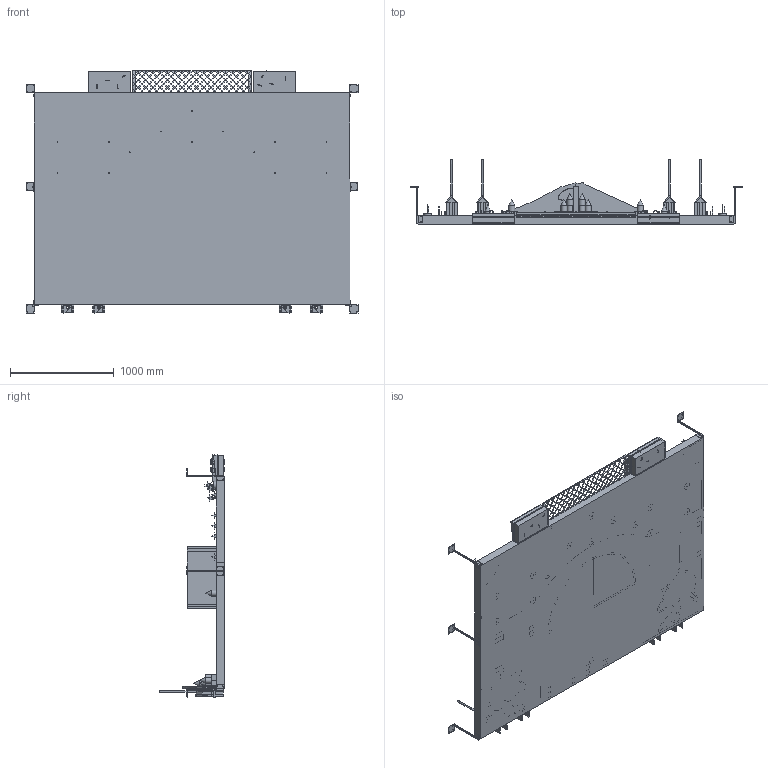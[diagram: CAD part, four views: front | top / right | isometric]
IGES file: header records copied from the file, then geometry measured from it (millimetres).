
Global section: file name: ASSY Table with elements; native system: Autodesk Inventor 2015; preprocessor: unknown; author: Florian; date: 20150930.194032; units: millimetre
Bounding box: 3204 x 625.51 x 2336.85 mm (x, y, z)
Volume: 114506953.7 mm3; surface area: 20347791.4 mm2
Topology: 273 solids, 273 shells, 2812 faces, 6913 edges, 4614 vertices
Faces by surface type: bspline 2812
